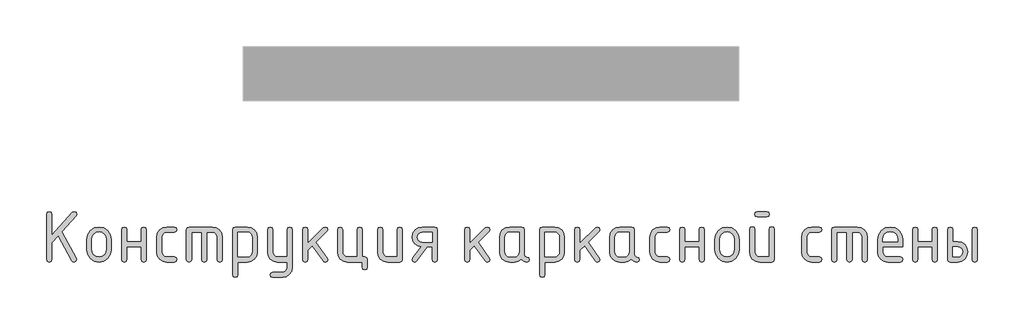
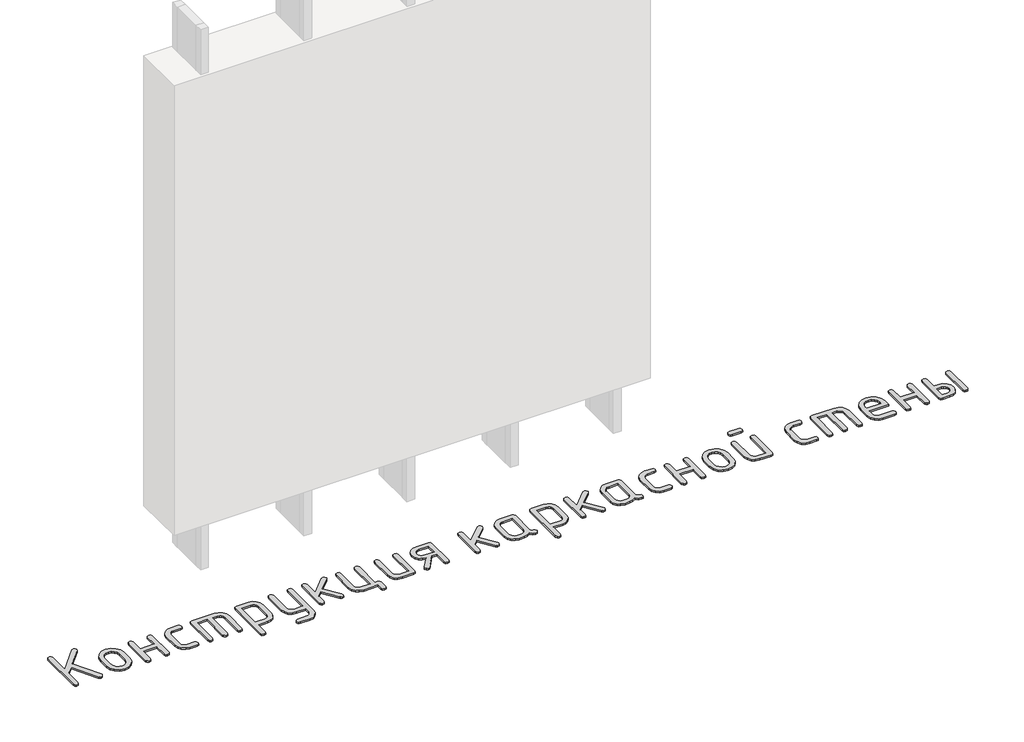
# One storey, part 37 of 42: 1 proxy.
"""IFC4 building model written with IfcOpenShell, lengths in millimetres."""

from ifc_helpers import new_model, si_unit, origin, origin_with_axes, place, context, project, spatial, polyline, outline, extrude, element, save

model = new_model("IFC4")

# Units and contexts
model_context = context("Model", 3, world=origin())
ifc_project = project(units=[si_unit("LENGTHUNIT", "METRE", prefix="MILLI")], contexts=[model_context])

# Site, building, storey
site = spatial("IfcSite", under=ifc_project)
building = spatial("IfcBuilding", under=site)
storey = spatial("IfcBuildingStorey", under=building, Name="Этаж 01", Elevation=0.0)

# Proxy
placement = place(None, origin())
element("IfcBuildingElementProxy", 1, Name="300 мм GOST Common", ObjectType="300 мм GOST Common", at=placement, inside=storey, context=model_context, shape_type="SweptSolid", body=[
    extrude(outline(polyline([(16042.5630716, -37991.5778093), (16003.3417849, -38034.9956124), (16003.3417849, -38135.6313009), (15999.4680775, -38147.0708429), (15987.8469555, -38150.8840235), (15976.2258335, -38147.0708429), (15972.3521262, -38135.6313009), (15972.3521262, -37861.4051023), (15976.2258335, -37849.9655603), (15987.8469555, -37846.1523797), (15999.4680775, -37849.9655603), (16003.3417849, -37861.4051023), (16003.3417849, -37989.4795511), (16128.1881442, -37851.2366205), (16139.728564, -37846.1523797), (16151.0470526, -37849.9655603), (16154.8198822, -37861.4051023), (16150.7040681, -37871.8156908), (16064.1912709, -37967.6092451), (16152.8023263, -38128.0452907), (16154.8198822, -38135.6313009), (16150.1391525, -38146.1629427), (16139.728564, -38150.8840235), (16131.7390426, -38148.8664676), (16126.1705883, -38142.8137999), (16042.5630716, -37991.5778093)])), origin_with_axes(), (0.0, 0.0, 1.0), 10.0),
    extrude(outline(polyline([(16215.1044526, -38075.2660282), (16215.1044526, -38014.7393511), (16220.5821169, -37985.6663705), (16237.0151098, -37961.2337685), (16261.2156928, -37944.6494589), (16289.9961278, -37939.1213558), (16319.0791962, -37944.5889323), (16343.2192526, -37960.9916618), (16359.4706654, -37985.3637371), (16364.887803, -38014.7393511), (16364.887803, -38075.2660282), (16359.4101387, -38104.3390088), (16342.9771459, -38128.7716108), (16318.7765628, -38145.3559204), (16289.9961278, -38150.8840235), (16261.2156928, -38145.3559204), (16237.0151098, -38128.7716108), (16220.5821169, -38104.3390088), (16215.1044526, -38075.2660282)]), holes=[polyline([(16333.8981443, -38074.3783036), (16333.8981443, -38013.7709242), (16330.6801426, -37996.3392412), (16321.0261376, -37981.6514342), (16306.8326318, -37971.6645325), (16289.9961278, -37968.3355653), (16273.1596238, -37971.6645325), (16258.966118, -37981.6514342), (16249.312113, -37996.3392412), (16246.0941113, -38013.7709242), (16246.0941113, -38074.3783036), (16249.2818497, -38091.9713911), (16258.8450646, -38106.6591981), (16273.0083071, -38116.5855732), (16289.9961278, -38119.8943648), (16306.8326318, -38116.5653976), (16321.0261376, -38106.5784959), (16330.6801426, -38091.8705133), (16333.8981443, -38074.3783036)])]), origin_with_axes(), (0.0, 0.0, 1.0), 10.0),
    extrude(outline(polyline([(16457.8567791, -38057.9150474), (16457.8567791, -38135.3891942), (16453.9830718, -38147.0103162), (16442.3619498, -38150.8840235), (16430.7408277, -38147.111194), (16426.8671204, -38135.7927054), (16426.8671204, -37954.2126739), (16430.7408277, -37942.8941853), (16442.3619498, -37939.1213558), (16453.9830718, -37942.7731319), (16457.8567791, -37953.7284605), (16457.8567791, -38026.9253887), (16545.6608121, -38026.9253887), (16545.6608121, -37953.7284605), (16549.5345194, -37942.7731319), (16561.1556414, -37939.1213558), (16572.7767634, -37942.8941853), (16576.6504708, -37954.2126739), (16576.6504708, -38135.7927054), (16572.7767634, -38147.111194), (16561.1556414, -38150.8840235), (16549.5345194, -38147.0103162), (16545.6608121, -38135.3891942), (16545.6608121, -38057.9150474), (16457.8567791, -38057.9150474)])), origin_with_axes(), (0.0, 0.0, 1.0), 10.0),
    extrude(outline(polyline([(16669.6194469, -38000.0515441), (16669.6194469, -38089.9538352), (16671.8589339, -38101.3631138), (16678.5773951, -38111.05747), (16688.3827168, -38117.6851411), (16699.8827855, -38119.8943648), (16745.3988467, -38119.8943648), (16756.7173353, -38123.7680722), (16760.4901648, -38135.3891942), (16756.7173353, -38147.0103162), (16745.3988467, -38150.8840235), (16699.8827855, -38150.8840235), (16676.337908, -38146.5059272), (16656.5456846, -38133.3716383), (16643.1087623, -38113.8618727), (16638.6297882, -38090.3573464), (16638.6297882, -37999.6480329), (16643.1087623, -37976.1435066), (16656.5456846, -37956.633741), (16676.337908, -37943.4994521), (16699.8827855, -37939.1213558), (16745.3988467, -37939.1213558), (16756.7173353, -37942.9950631), (16760.4901648, -37954.6161851), (16756.7173353, -37966.2373071), (16745.3988467, -37970.1110145), (16699.8827855, -37970.1110145), (16688.2314001, -37972.3000626), (16678.4563417, -37978.8672071), (16671.8286706, -37988.5413876), (16669.6194469, -38000.0515441)])), origin_with_axes(), (0.0, 0.0, 1.0), 10.0),
    extrude(outline(polyline([(16834.8976266, -37939.1213558), (16974.3510908, -37939.1213558), (16998.2389527, -37943.5297154), (17018.2531072, -37956.7547944), (17031.8110829, -37976.2948233), (17036.3304082, -37999.6480329), (17036.3304082, -38135.7927054), (17032.4567008, -38147.111194), (17020.8355788, -38150.8840235), (17009.2144568, -38147.111194), (17005.3407495, -38135.7927054), (17005.3407495, -38000.2129486), (17003.1113502, -37988.480861), (16996.4231524, -37978.7865048), (16986.4463384, -37972.2798871), (16974.3510908, -37970.1110145), (16943.3614321, -37970.1110145), (16943.3614321, -38135.7927054), (16939.4877247, -38147.111194), (16927.8666027, -38150.8840235), (16916.2454807, -38147.111194), (16912.3717734, -38135.7927054), (16912.3717734, -37970.1110145), (16850.392456, -37970.1110145), (16850.392456, -38135.7927054), (16846.5187486, -38147.111194), (16834.8976266, -38150.8840235), (16823.2765046, -38147.111194), (16819.4027973, -38135.7927054), (16819.4027973, -37954.2126739), (16823.2765046, -37942.8941853), (16834.8976266, -37939.1213558)])), origin_with_axes(), (0.0, 0.0, 1.0), 10.0),
    extrude(outline(polyline([(17098.3097256, -37954.3740784), (17102.0623795, -37942.9345364), (17113.3203415, -37939.1213558), (17188.2120167, -37939.1213558), (17211.4340851, -37943.4994521), (17230.7420951, -37956.633741), (17243.7553307, -37976.1435066), (17248.0930759, -37999.6480329), (17248.0930759, -38090.3573464), (17243.7855941, -38113.710556), (17230.8631485, -38133.2505849), (17211.7064552, -38146.4756639), (17188.6962301, -38150.8840235), (17129.2993843, -38150.8840235), (17129.2993843, -38228.3581703), (17125.4256769, -38239.9792923), (17113.8045549, -38243.8529996), (17102.1834329, -38240.039819), (17098.3097256, -38228.600277), (17098.3097256, -37954.3740784)]), holes=[polyline([(17129.2993843, -37970.1110145), (17129.2993843, -38119.8943648), (17187.8085055, -38119.8943648), (17199.086643, -38117.7053167), (17208.5489802, -38111.1381722), (17214.964808, -38101.4639916), (17217.1034172, -38089.9538352), (17217.1034172, -38000.0515441), (17214.9950713, -37988.390071), (17208.6700335, -37978.7461537), (17199.2379597, -37972.2697993), (17187.8085055, -37970.1110145), (17129.2993843, -37970.1110145)])]), origin_with_axes(), (0.0, 0.0, 1.0), 10.0),
    extrude(outline(polyline([(17428.866085, -38182.3578957), (17428.866085, -38150.8840235), (17369.4692392, -38150.8840235), (17346.4590141, -38146.4756639), (17327.3023208, -38133.2505849), (17314.3798752, -38113.710556), (17310.0723933, -38090.3573464), (17310.0723933, -37954.2126739), (17313.9461007, -37942.8941853), (17325.5672227, -37939.1213558), (17337.1883447, -37942.8941853), (17341.062052, -37954.2126739), (17341.062052, -38089.7924307), (17343.2208368, -38101.2218849), (17349.6971913, -38110.9767677), (17359.1797041, -38117.6649656), (17370.3569638, -38119.8943648), (17428.866085, -38119.8943648), (17428.866085, -37954.2126739), (17432.7397923, -37942.8941853), (17444.3609144, -37939.1213558), (17455.9820364, -37942.9345364), (17459.8557437, -37954.3740784), (17459.8557437, -38182.9228113), (17455.6087885, -38206.3768987), (17442.867923, -38226.0581566), (17423.9331608, -38239.4042889), (17401.1045158, -38243.8529996), (17341.062052, -38243.8529996), (17329.6830367, -38239.9792923), (17325.8900316, -38228.3581703), (17330.4900591, -38217.5440706), (17341.062052, -38212.8633409), (17399.5711733, -38212.8633409), (17411.0006275, -38210.6944683), (17420.4327013, -38204.1878505), (17426.7577391, -38194.3926166), (17428.866085, -38182.3578957)])), origin_with_axes(), (0.0, 0.0, 1.0), 10.0),
    extrude(outline(polyline([(17552.8247198, -38038.5465108), (17648.0533585, -37943.4792765), (17658.8674582, -37939.1213558), (17670.2464735, -37942.8941853), (17674.0394786, -37954.2126739), (17669.4394511, -37964.7846669), (17602.8601062, -38031.2833095), (17671.0534958, -38127.0768639), (17674.0394786, -38135.9541098), (17670.2464735, -38147.1515451), (17658.8674582, -38150.8840235), (17651.7253103, -38149.2699788), (17646.2779093, -38144.4278446), (17581.0705025, -38052.8308066), (17552.8247198, -38081.0765892), (17552.8247198, -38135.7120031), (17548.9510125, -38147.0910184), (17537.3298905, -38150.8840235), (17525.7087684, -38147.111194), (17521.8350611, -38135.7927054), (17521.8350611, -37954.2126739), (17525.7087684, -37942.8941853), (17537.3298905, -37939.1213558), (17548.9510125, -37942.8941853), (17552.8247198, -37954.2126739), (17552.8247198, -38038.5465108)])), origin_with_axes(), (0.0, 0.0, 1.0), 10.0),
    extrude(outline(polyline([(17898.8759086, -38119.8943648), (17910.4970306, -38123.7680722), (17914.370738, -38135.3891942), (17914.370738, -38181.8736822), (17910.4970306, -38193.4948042), (17898.8759086, -38197.3685116), (17887.2547866, -38193.4948042), (17883.3810793, -38181.8736822), (17883.3810793, -38150.8840235), (17793.4787881, -38150.8840235), (17770.2567197, -38146.4756639), (17750.9487097, -38133.2505849), (17737.9354741, -38113.710556), (17733.5977289, -38090.3573464), (17733.5977289, -37954.2126739), (17737.4714362, -37942.8941853), (17749.0925582, -37939.1213558), (17760.7136802, -37942.8941853), (17764.5873876, -37954.2126739), (17764.5873876, -38089.7924307), (17766.7461724, -38101.2218849), (17773.2225269, -38110.9767677), (17782.7050396, -38117.6649656), (17793.8822993, -38119.8943648), (17852.3914206, -38119.8943648), (17852.3914206, -37954.2126739), (17856.2651279, -37942.8941853), (17867.8862499, -37939.1213558), (17879.5073719, -37942.8941853), (17883.3810793, -37954.2126739), (17883.3810793, -38119.8943648), (17898.8759086, -38119.8943648)])), origin_with_axes(), (0.0, 0.0, 1.0), 10.0),
    extrude(outline(polyline([(18126.1334057, -37954.2126739), (18126.1334057, -38135.7927054), (18122.3807518, -38147.111194), (18111.1227898, -38150.8840235), (18036.2311146, -38150.8840235), (18013.0090461, -38146.5059272), (17993.7010361, -38133.3716383), (17980.6878006, -38113.8618727), (17976.3500554, -38090.3573464), (17976.3500554, -37954.2126739), (17980.2237627, -37942.8941853), (17991.8448847, -37939.1213558), (18003.4660067, -37942.8941853), (18007.3397141, -37954.2126739), (18007.3397141, -38089.7924307), (18009.4984989, -38101.2218849), (18015.9748533, -38110.9767677), (18025.4573661, -38117.6649656), (18036.6346258, -38119.8943648), (18095.143747, -38119.8943648), (18095.143747, -37954.2126739), (18099.0174544, -37942.8941853), (18110.6385764, -37939.1213558), (18122.2596984, -37942.8941853), (18126.1334057, -37954.2126739)])), origin_with_axes(), (0.0, 0.0, 1.0), 10.0),
    extrude(outline(polyline([(18239.6814521, -38059.6904966), (18218.3054472, -38053.3856344), (18200.9847298, -38039.9587999), (18189.5149245, -38021.3871978), (18185.691656, -37999.6480329), (18190.0899279, -37976.1435066), (18203.2847435, -37956.633741), (18222.8348603, -37943.4994521), (18246.2990354, -37939.1213558), (18322.4012442, -37939.1213558), (18334.0223662, -37942.8941853), (18337.8960735, -37954.2126739), (18337.8960735, -38135.7927054), (18334.0223662, -38147.111194), (18322.4012442, -38150.8840235), (18310.7801221, -38147.0910184), (18306.9064148, -38135.7120031), (18306.9064148, -38060.0133056), (18276.1588628, -38060.0133056), (18213.0497141, -38144.6699513), (18207.703191, -38149.3305055), (18200.8636765, -38150.8840235), (18189.4846611, -38147.111194), (18185.691656, -38135.7927054), (18188.6776388, -38126.5926504), (18239.6814521, -38059.6904966)]), holes=[polyline([(18216.0356969, -38000.4550553), (18218.2751839, -38011.9551239), (18224.9936451, -38021.7604456), (18234.7989668, -38028.4789068), (18246.2990354, -38030.7183938), (18306.9064148, -38030.7183938), (18306.9064148, -37970.1110145), (18246.2990354, -37970.1110145), (18234.6476501, -37972.3202382), (18224.8725917, -37978.9479093), (18218.2449206, -37988.7431432), (18216.0356969, -38000.4550553)])]), origin_with_axes(), (0.0, 0.0, 1.0), 10.0),
    extrude(outline(polyline([(18534.1639119, -38038.5465108), (18629.3925506, -37943.4792765), (18640.2066503, -37939.1213558), (18651.5856656, -37942.8941853), (18655.3786707, -37954.2126739), (18650.7786432, -37964.7846669), (18584.1992984, -38031.2833095), (18652.392688, -38127.0768639), (18655.3786707, -38135.9541098), (18651.5856656, -38147.1515451), (18640.2066503, -38150.8840235), (18633.0645024, -38149.2699788), (18627.6171015, -38144.4278446), (18562.4096946, -38052.8308066), (18534.1639119, -38081.0765892), (18534.1639119, -38135.7120031), (18530.2902046, -38147.0910184), (18518.6690826, -38150.8840235), (18507.0479606, -38147.111194), (18503.1742532, -38135.7927054), (18503.1742532, -37954.2126739), (18507.0479606, -37942.8941853), (18518.6690826, -37939.1213558), (18530.2902046, -37942.8941853), (18534.1639119, -37954.2126739), (18534.1639119, -38038.5465108)])), origin_with_axes(), (0.0, 0.0, 1.0), 10.0),
    extrude(outline(polyline([(18894.98361, -38135.7927054), (18891.2107804, -38147.111194), (18879.8922918, -38150.8840235), (18860.7456863, -38146.8690873), (18845.4324369, -38134.8242785), (18827.0121515, -38146.8690873), (18804.8392121, -38150.8840235), (18774.8179803, -38150.8840235), (18751.5959118, -38146.5059272), (18732.2879018, -38133.3716383), (18719.2746662, -38113.8618727), (18714.936921, -38090.3573464), (18714.936921, -37999.6480329), (18719.2746662, -37976.1435066), (18732.2879018, -37956.633741), (18751.5959118, -37943.4994521), (18774.8179803, -37939.1213558), (18849.7096555, -37939.1213558), (18860.9676174, -37942.8941853), (18864.7202714, -37954.2126739), (18864.7202714, -38105.5293668), (18868.5031887, -38116.8478554), (18879.8519407, -38120.620685), (18891.2006926, -38124.4136901), (18894.98361, -38135.7927054)]), holes=[polyline([(18833.7306127, -37970.1110145), (18775.2214915, -37970.1110145), (18763.9433539, -37972.3000626), (18754.4810168, -37978.8672071), (18748.065189, -37988.5413876), (18745.9265797, -38000.0515441), (18745.9265797, -38089.9538352), (18748.0853645, -38101.3631138), (18754.561719, -38111.05747), (18764.0442317, -38117.6851411), (18775.2214915, -38119.8943648), (18804.435701, -38119.8943648), (18815.7138385, -38117.7053167), (18825.1761757, -38111.1381722), (18831.5920034, -38101.4639916), (18833.7306127, -38089.9538352), (18833.7306127, -37970.1110145)])]), origin_with_axes(), (0.0, 0.0, 1.0), 10.0),
    extrude(outline(polyline([(18957.6892475, -37954.3740784), (18961.4419015, -37942.9345364), (18972.6998634, -37939.1213558), (19047.5915386, -37939.1213558), (19070.8136071, -37943.4994521), (19090.1216171, -37956.633741), (19103.1348527, -37976.1435066), (19107.4725979, -37999.6480329), (19107.4725979, -38090.3573464), (19103.165116, -38113.710556), (19090.2426704, -38133.2505849), (19071.0859771, -38146.4756639), (19048.075752, -38150.8840235), (18988.6789062, -38150.8840235), (18988.6789062, -38228.3581703), (18984.8051989, -38239.9792923), (18973.1840768, -38243.8529996), (18961.5629548, -38240.039819), (18957.6892475, -38228.600277), (18957.6892475, -37954.3740784)]), holes=[polyline([(18988.6789062, -37970.1110145), (18988.6789062, -38119.8943648), (19047.1880274, -38119.8943648), (19058.4661649, -38117.7053167), (19067.9285021, -38111.1381722), (19074.3443299, -38101.4639916), (19076.4829392, -38089.9538352), (19076.4829392, -38000.0515441), (19074.3745933, -37988.390071), (19068.0495555, -37978.7461537), (19058.6174816, -37972.2697993), (19047.1880274, -37970.1110145), (18988.6789062, -37970.1110145)])]), origin_with_axes(), (0.0, 0.0, 1.0), 10.0),
    extrude(outline(polyline([(19200.441574, -38038.5465108), (19295.6702127, -37943.4792765), (19306.4843123, -37939.1213558), (19317.8633276, -37942.8941853), (19321.6563327, -37954.2126739), (19317.0563053, -37964.7846669), (19250.4769604, -38031.2833095), (19318.67035, -38127.0768639), (19321.6563327, -38135.9541098), (19317.8633276, -38147.1515451), (19306.4843123, -38150.8840235), (19299.3421644, -38149.2699788), (19293.8947635, -38144.4278446), (19228.6873566, -38052.8308066), (19200.441574, -38081.0765892), (19200.441574, -38135.7120031), (19196.5678666, -38147.0910184), (19184.9467446, -38150.8840235), (19173.3256226, -38147.111194), (19169.4519153, -38135.7927054), (19169.4519153, -37954.2126739), (19173.3256226, -37942.8941853), (19184.9467446, -37939.1213558), (19196.5678666, -37942.8941853), (19200.441574, -37954.2126739), (19200.441574, -38038.5465108)])), origin_with_axes(), (0.0, 0.0, 1.0), 10.0),
    extrude(outline(polyline([(19561.261272, -38135.7927054), (19557.4884425, -38147.111194), (19546.1699538, -38150.8840235), (19527.0233483, -38146.8690873), (19511.710099, -38134.8242785), (19493.2898136, -38146.8690873), (19471.1168742, -38150.8840235), (19441.0956423, -38150.8840235), (19417.8735738, -38146.5059272), (19398.5655638, -38133.3716383), (19385.5523282, -38113.8618727), (19381.214583, -38090.3573464), (19381.214583, -37999.6480329), (19385.5523282, -37976.1435066), (19398.5655638, -37956.633741), (19417.8735738, -37943.4994521), (19441.0956423, -37939.1213558), (19515.9873175, -37939.1213558), (19527.2452794, -37942.8941853), (19530.9979334, -37954.2126739), (19530.9979334, -38105.5293668), (19534.7808507, -38116.8478554), (19546.1296027, -38120.620685), (19557.4783547, -38124.4136901), (19561.261272, -38135.7927054)]), holes=[polyline([(19500.0082747, -37970.1110145), (19441.4991535, -37970.1110145), (19430.221016, -37972.3000626), (19420.7586788, -37978.8672071), (19414.342851, -37988.5413876), (19412.2042417, -38000.0515441), (19412.2042417, -38089.9538352), (19414.3630266, -38101.3631138), (19420.839381, -38111.05747), (19430.3218938, -38117.6851411), (19441.4991535, -38119.8943648), (19470.713363, -38119.8943648), (19481.9915005, -38117.7053167), (19491.4538377, -38111.1381722), (19497.8696655, -38101.4639916), (19500.0082747, -38089.9538352), (19500.0082747, -37970.1110145)])]), origin_with_axes(), (0.0, 0.0, 1.0), 10.0),
    extrude(outline(polyline([(19654.9565682, -38000.0515441), (19654.9565682, -38089.9538352), (19657.1960553, -38101.3631138), (19663.9145164, -38111.05747), (19673.7198381, -38117.6851411), (19685.2199068, -38119.8943648), (19730.735968, -38119.8943648), (19742.0544566, -38123.7680722), (19745.8272862, -38135.3891942), (19742.0544566, -38147.0103162), (19730.735968, -38150.8840235), (19685.2199068, -38150.8840235), (19661.6750294, -38146.5059272), (19641.882806, -38133.3716383), (19628.4458836, -38113.8618727), (19623.9669095, -38090.3573464), (19623.9669095, -37999.6480329), (19628.4458836, -37976.1435066), (19641.882806, -37956.633741), (19661.6750294, -37943.4994521), (19685.2199068, -37939.1213558), (19730.735968, -37939.1213558), (19742.0544566, -37942.9950631), (19745.8272862, -37954.6161851), (19742.0544566, -37966.2373071), (19730.735968, -37970.1110145), (19685.2199068, -37970.1110145), (19673.5685214, -37972.3000626), (19663.7934631, -37978.8672071), (19657.1657919, -37988.5413876), (19654.9565682, -38000.0515441)])), origin_with_axes(), (0.0, 0.0, 1.0), 10.0),
    extrude(outline(polyline([(19835.7295773, -38057.9150474), (19835.7295773, -38135.3891942), (19831.85587, -38147.0103162), (19820.2347479, -38150.8840235), (19808.6136259, -38147.111194), (19804.7399186, -38135.7927054), (19804.7399186, -37954.2126739), (19808.6136259, -37942.8941853), (19820.2347479, -37939.1213558), (19831.85587, -37942.7731319), (19835.7295773, -37953.7284605), (19835.7295773, -38026.9253887), (19923.5336103, -38026.9253887), (19923.5336103, -37953.7284605), (19927.4073176, -37942.7731319), (19939.0284396, -37939.1213558), (19950.6495616, -37942.8941853), (19954.523269, -37954.2126739), (19954.523269, -38135.7927054), (19950.6495616, -38147.111194), (19939.0284396, -38150.8840235), (19927.4073176, -38147.0103162), (19923.5336103, -38135.3891942), (19923.5336103, -38057.9150474), (19835.7295773, -38057.9150474)])), origin_with_axes(), (0.0, 0.0, 1.0), 10.0),
    extrude(outline(polyline([(20016.5025864, -38075.2660282), (20016.5025864, -38014.7393511), (20021.9802507, -37985.6663705), (20038.4132435, -37961.2337685), (20062.6138266, -37944.6494589), (20091.3942616, -37939.1213558), (20120.4773299, -37944.5889323), (20144.6173863, -37960.9916618), (20160.8687991, -37985.3637371), (20166.2859368, -38014.7393511), (20166.2859368, -38075.2660282), (20160.8082725, -38104.3390088), (20144.3752796, -38128.7716108), (20120.1746965, -38145.3559204), (20091.3942616, -38150.8840235), (20062.6138266, -38145.3559204), (20038.4132435, -38128.7716108), (20021.9802507, -38104.3390088), (20016.5025864, -38075.2660282)]), holes=[polyline([(20135.2962781, -38074.3783036), (20135.2962781, -38013.7709242), (20132.0782764, -37996.3392412), (20122.4242714, -37981.6514342), (20108.2307656, -37971.6645325), (20091.3942616, -37968.3355653), (20074.5577575, -37971.6645325), (20060.3642517, -37981.6514342), (20050.7102467, -37996.3392412), (20047.4922451, -38013.7709242), (20047.4922451, -38074.3783036), (20050.6799834, -38091.9713911), (20060.2431984, -38106.6591981), (20074.4064408, -38116.5855732), (20091.3942616, -38119.8943648), (20108.2307656, -38116.5653976), (20122.4242714, -38106.5784959), (20132.0782764, -38091.8705133), (20135.2962781, -38074.3783036)])]), origin_with_axes(), (0.0, 0.0, 1.0), 10.0),
    extrude(outline(polyline([(20378.0486045, -37953.1635449), (20378.0486045, -38135.3891942), (20374.2959505, -38147.0103162), (20363.0379886, -38150.8840235), (20288.1463134, -38150.8840235), (20264.9242449, -38146.4050494), (20245.6162349, -38132.9681271), (20232.6029993, -38113.1557281), (20228.2652542, -38089.550324), (20228.2652542, -37953.1635449), (20232.1389615, -37941.8450562), (20243.7600835, -37938.0722267), (20255.3812055, -37941.8450562), (20259.2549128, -37953.1635449), (20259.2549128, -38089.550324), (20261.4136977, -38101.1109194), (20267.8900521, -38110.9364166), (20277.3725649, -38117.6548778), (20288.5498246, -38119.8943648), (20347.0589458, -38119.8943648), (20347.0589458, -37953.1635449), (20350.9326532, -37941.8450562), (20362.5537752, -37938.0722267), (20374.1748972, -37941.8450562), (20378.0486045, -37953.1635449)])), origin_with_axes(), (0.0, 0.0, 1.0), 10.0),
    extrude(outline(polyline([(20332.3711388, -37877.1420384), (20273.9427198, -37877.1420384), (20262.9268646, -37873.268331), (20259.2549128, -37861.647209), (20262.9268646, -37850.026087), (20273.9427198, -37846.1523797), (20332.3711388, -37846.1523797), (20343.3869941, -37850.026087), (20347.0589458, -37861.647209), (20343.3869941, -37873.268331), (20332.3711388, -37877.1420384)])), origin_with_axes(), (0.0, 0.0, 1.0), 10.0),
    extrude(outline(polyline([(20574.316443, -38000.0515441), (20574.316443, -38089.9538352), (20576.55593, -38101.3631138), (20583.2743912, -38111.05747), (20593.0797129, -38117.6851411), (20604.5797815, -38119.8943648), (20650.0958427, -38119.8943648), (20661.4143314, -38123.7680722), (20665.1871609, -38135.3891942), (20661.4143314, -38147.0103162), (20650.0958427, -38150.8840235), (20604.5797815, -38150.8840235), (20581.0349041, -38146.5059272), (20561.2426807, -38133.3716383), (20547.8057584, -38113.8618727), (20543.3267843, -38090.3573464), (20543.3267843, -37999.6480329), (20547.8057584, -37976.1435066), (20561.2426807, -37956.633741), (20581.0349041, -37943.4994521), (20604.5797815, -37939.1213558), (20650.0958427, -37939.1213558), (20661.4143314, -37942.9950631), (20665.1871609, -37954.6161851), (20661.4143314, -37966.2373071), (20650.0958427, -37970.1110145), (20604.5797815, -37970.1110145), (20592.9283962, -37972.3000626), (20583.1533378, -37978.8672071), (20576.5256667, -37988.5413876), (20574.316443, -38000.0515441)])), origin_with_axes(), (0.0, 0.0, 1.0), 10.0),
    extrude(outline(polyline([(20739.5946227, -37939.1213558), (20879.0480868, -37939.1213558), (20902.9359487, -37943.5297154), (20922.9501033, -37956.7547944), (20936.508079, -37976.2948233), (20941.0274042, -37999.6480329), (20941.0274042, -38135.7927054), (20937.1536969, -38147.111194), (20925.5325749, -38150.8840235), (20913.9114529, -38147.111194), (20910.0377455, -38135.7927054), (20910.0377455, -38000.2129486), (20907.8083463, -37988.480861), (20901.1201484, -37978.7865048), (20891.1433345, -37972.2798871), (20879.0480868, -37970.1110145), (20848.0584281, -37970.1110145), (20848.0584281, -38135.7927054), (20844.1847208, -38147.111194), (20832.5635988, -38150.8840235), (20820.9424768, -38147.111194), (20817.0687694, -38135.7927054), (20817.0687694, -37970.1110145), (20755.089452, -37970.1110145), (20755.089452, -38135.7927054), (20751.2157447, -38147.111194), (20739.5946227, -38150.8840235), (20727.9735007, -38147.111194), (20724.0997933, -38135.7927054), (20724.0997933, -37954.2126739), (20727.9735007, -37942.8941853), (20739.5946227, -37939.1213558)])), origin_with_axes(), (0.0, 0.0, 1.0), 10.0),
    extrude(outline(polyline([(21033.9963803, -38057.9150474), (21033.9963803, -38088.9047061), (21036.2358674, -38100.6973204), (21042.9543285, -38110.734661), (21052.7596502, -38117.6044389), (21064.2597189, -38119.8943648), (21140.0391187, -38119.8943648), (21151.418134, -38123.7680722), (21155.2111391, -38135.3891942), (21151.418134, -38147.0103162), (21140.0391187, -38150.8840235), (21064.2597189, -38150.8840235), (21040.7148415, -38146.5059272), (21020.9226181, -38133.3716383), (21007.4856957, -38113.8618727), (21003.0067216, -38090.3573464), (21003.0067216, -38014.7393511), (21008.6256148, -37985.6663705), (21025.4822944, -37961.2337685), (21050.207442, -37944.6494589), (21079.4317393, -37939.1213558), (21108.8779677, -37944.4880545), (21133.300482, -37960.5881506), (21149.7334748, -37984.5163636), (21155.2111391, -38013.3674131), (21155.2111391, -38057.9150474), (21033.9963803, -38057.9150474)]), holes=[polyline([(21079.4317393, -37966.3180094), (21062.0000563, -37969.6469766), (21047.3122493, -37979.6338783), (21037.3253476, -37994.3216853), (21033.9963803, -38011.7533683), (21033.9963803, -38026.9253887), (21124.8670983, -38026.9253887), (21124.8670983, -38011.7533683), (21121.538131, -37994.3216853), (21111.5512293, -37979.6338783), (21096.8634223, -37969.6469766), (21079.4317393, -37966.3180094)])]), origin_with_axes(), (0.0, 0.0, 1.0), 10.0),
    extrude(outline(polyline([(21245.7590481, -38057.9150474), (21245.7590481, -38135.3891942), (21241.8853408, -38147.0103162), (21230.2642188, -38150.8840235), (21218.6430967, -38147.111194), (21214.7693894, -38135.7927054), (21214.7693894, -37954.2126739), (21218.6430967, -37942.8941853), (21230.2642188, -37939.1213558), (21241.8853408, -37942.7731319), (21245.7590481, -37953.7284605), (21245.7590481, -38026.9253887), (21333.5630811, -38026.9253887), (21333.5630811, -37953.7284605), (21337.4367884, -37942.7731319), (21349.0579104, -37939.1213558), (21360.6790324, -37942.8941853), (21364.5527398, -37954.2126739), (21364.5527398, -38135.7927054), (21360.6790324, -38147.111194), (21349.0579104, -38150.8840235), (21337.4367884, -38147.0103162), (21333.5630811, -38135.3891942), (21333.5630811, -38057.9150474), (21245.7590481, -38057.9150474)])), origin_with_axes(), (0.0, 0.0, 1.0), 10.0),
    extrude(outline(polyline([(21576.3154076, -37954.2126739), (21580.1891149, -37942.8941853), (21591.8102369, -37939.1213558), (21603.4313589, -37942.8941853), (21607.3050663, -37954.2126739), (21607.3050663, -38135.7927054), (21603.4313589, -38147.111194), (21591.8102369, -38150.8840235), (21580.1891149, -38147.111194), (21576.3154076, -38135.7927054), (21576.3154076, -37954.2126739)])), origin_with_axes(), (0.0, 0.0, 1.0), 10.0),
    extrude(outline(polyline([(21548.3924338, -38088.9047061), (21544.0042497, -38112.9438847), (21530.8396975, -38132.927776), (21511.2996685, -38146.3949616), (21487.7850545, -38150.8840235), (21442.0268865, -38150.8840235), (21430.4057645, -38147.111194), (21426.5320572, -38135.7927054), (21426.5320572, -37954.2126739), (21430.4057645, -37942.8941853), (21442.0268865, -37939.1213558), (21453.6480085, -37942.7731319), (21457.5217159, -37953.7284605), (21457.5217159, -38026.9253887), (21487.7850545, -38026.9253887), (21511.2996685, -38031.4144506), (21530.8396975, -38044.8816363), (21544.0042497, -38064.8655275), (21548.3924338, -38088.9047061)]), holes=[polyline([(21518.1290953, -38088.9047061), (21515.9501349, -38076.8094585), (21509.4132538, -38066.8326445), (21499.6482832, -38060.1444467), (21487.7850545, -38057.9150474), (21457.5217159, -38057.9150474), (21457.5217159, -38119.8943648), (21487.7850545, -38119.8943648), (21499.4969665, -38117.6347022), (21509.2922004, -38110.8557144), (21515.9198715, -38100.8486371), (21518.1290953, -38088.9047061)])]), origin_with_axes(), (0.0, 0.0, 1.0), 10.0),
])

save(model, "model.ifc")
